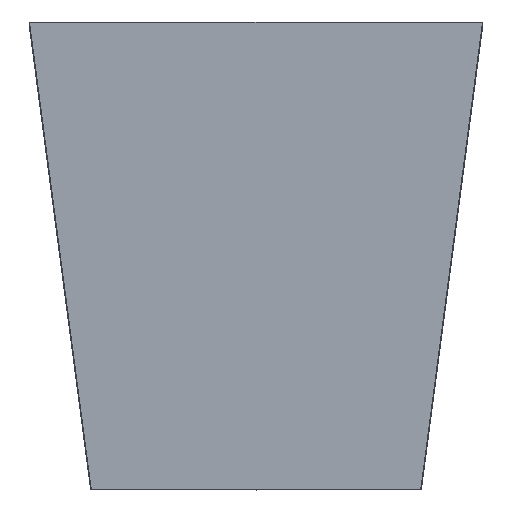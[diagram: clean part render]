
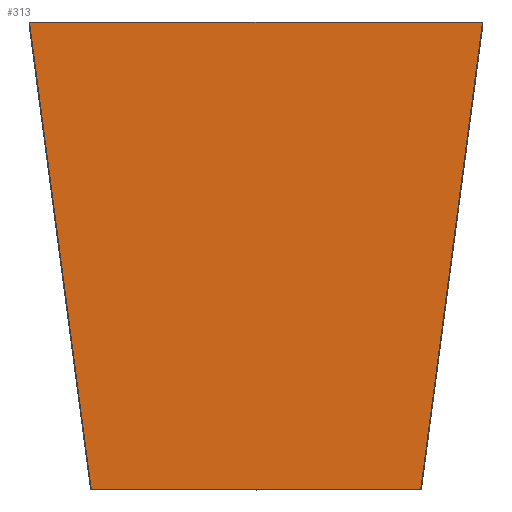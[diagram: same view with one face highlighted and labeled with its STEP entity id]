
A CAD part, top view. The second image highlights one B-rep face of the part: STEP entity #313.
In plain terms, the highlighted planar face has unit normal (0, 0, 1).
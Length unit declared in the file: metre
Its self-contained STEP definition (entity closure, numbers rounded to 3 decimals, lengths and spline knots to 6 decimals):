
#70=ORIENTED_EDGE('',*,*,#119,.F.);
#71=ORIENTED_EDGE('',*,*,#123,.F.);
#72=ORIENTED_EDGE('',*,*,#126,.T.);
#73=ORIENTED_EDGE('',*,*,#128,.T.);
#119=EDGE_CURVE('',#153,#154,#184,.T.);
#123=EDGE_CURVE('',#156,#153,#188,.T.);
#126=EDGE_CURVE('',#156,#158,#191,.T.);
#128=EDGE_CURVE('',#158,#154,#193,.T.);
#153=VERTEX_POINT('',#501);
#154=VERTEX_POINT('',#503);
#156=VERTEX_POINT('',#509);
#158=VERTEX_POINT('',#515);
#184=LINE('',#502,#223);
#188=LINE('',#510,#227);
#191=LINE('',#516,#230);
#193=LINE('',#519,#232);
#223=VECTOR('',#416,1.);
#227=VECTOR('',#422,1.);
#230=VECTOR('',#427,1.);
#232=VECTOR('',#431,1.);
#256=EDGE_LOOP('',(#70,#71,#72,#73));
#275=FACE_BOUND('',#256,.T.);
#294=PLANE('',#370);
#313=ADVANCED_FACE('',(#275),#294,.T.);
#370=AXIS2_PLACEMENT_3D('',#520,#432,#433);
#416=DIRECTION('',(1.,0.,0.));
#422=DIRECTION('',(-0.131,0.991,0.));
#427=DIRECTION('',(1.,0.,0.));
#431=DIRECTION('',(0.131,0.991,0.));
#432=DIRECTION('',(0.,0.,1.));
#433=DIRECTION('',(1.,0.,0.));
#501=CARTESIAN_POINT('',(-0.044346,0.091638,0.0002));
#502=CARTESIAN_POINT('',(-0.022173,0.091638,0.0002));
#503=CARTESIAN_POINT('',(0.044346,0.091638,0.0002));
#509=CARTESIAN_POINT('',(-0.032254,0.00015,0.0002));
#510=CARTESIAN_POINT('',(-0.04428,0.091142,0.0002));
#515=CARTESIAN_POINT('',(0.032254,0.00015,0.0002));
#516=CARTESIAN_POINT('',(-0.016127,0.00015,0.0002));
#519=CARTESIAN_POINT('',(0.038234,0.045398,0.0002));
#520=CARTESIAN_POINT('',(0.,0.045819,0.0002));
